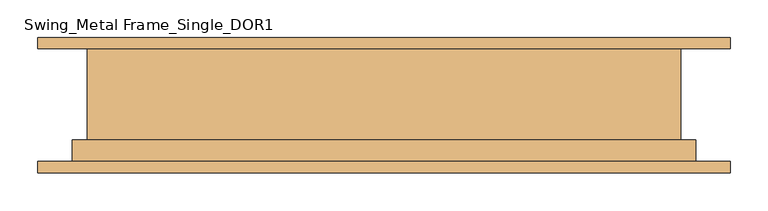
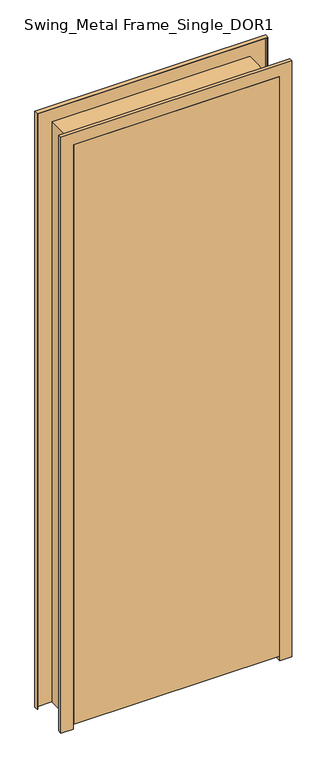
"""IFC4 building model written with IfcOpenShell, lengths in millimetres: door geometry, Swing_Metal Frame_Single_DOR1 : 2040h x 820 (2110x920 STUD)."""

from ifc_helpers import new_model, si_unit, frame, origin, place, context, project, spatial, polyline, outline, extrude, faceted_brep, source, transform, mapped, element, save


def swing_metal_frame_single_dor1_8c3bdc90(model_context):
    return source(origin(), model_context, "Body", "SolidModel", [
        extrude(outline(polyline([(410.0, -90.0), (-410.0, -90.0), (-410.0, -50.0), (410.0, -50.0), (410.0, -90.0)])), frame((0.0, 0.0, 20.0), z_axis=(0.0, 0.0, 1.0), x_axis=(1.0, 0.0, 0.0)), (0.0, 0.0, 1.0), 2440.0),
        faceted_brep([(-460.0, 90.0, 0.0), (-392.0, 90.0, 0.0), (-392.0, -48.0, 0.0), (-412.0, -48.0, 0.0), (-412.0, -90.0, 0.0), (-460.0, -90.0, 0.0), (-460.0, -75.0, 0.0), (-458.0, -75.0, 0.0), (-458.0, -88.0, 0.0), (-414.0, -88.0, 0.0), (-414.0, -46.0, 0.0), (-394.0, -46.0, 0.0), (-394.0, 88.0, 0.0), (-458.0, 88.0, 0.0), (-458.0, 75.0, 0.0), (-460.0, 75.0, 0.0), (-460.0, 75.0, 2510.0), (-460.0, 90.0, 2510.0), (-458.0, 75.0, 2508.0), (458.0, 75.0, 2508.0), (458.0, 75.0, 0.0), (460.0, 75.0, 0.0), (460.0, 75.0, 2510.0), (-458.0, 88.0, 2508.0), (-394.0, 88.0, 2444.0), (394.0, 88.0, 2444.0), (394.0, 88.0, 0.0), (458.0, 88.0, 0.0), (458.0, 88.0, 2508.0), (-394.0, -46.0, 2444.0), (-414.0, -46.0, 2464.0), (414.0, -46.0, 2464.0), (414.0, -46.0, 0.0), (394.0, -46.0, 0.0), (394.0, -46.0, 2444.0), (-414.0, -88.0, 2464.0), (-458.0, -88.0, 2508.0), (458.0, -88.0, 2508.0), (458.0, -88.0, 0.0), (414.0, -88.0, 0.0), (414.0, -88.0, 2464.0), (-458.0, -75.0, 2508.0), (-460.0, -75.0, 2510.0), (460.0, -75.0, 2510.0), (460.0, -75.0, 0.0), (458.0, -75.0, 0.0), (458.0, -75.0, 2508.0), (-460.0, -90.0, 2510.0), (-412.0, -90.0, 2462.0), (412.0, -90.0, 2462.0), (412.0, -90.0, 0.0), (460.0, -90.0, 0.0), (460.0, -90.0, 2510.0), (-412.0, -48.0, 2462.0), (-392.0, -48.0, 2442.0), (392.0, -48.0, 2442.0), (392.0, -48.0, 0.0), (412.0, -48.0, 0.0), (412.0, -48.0, 2462.0), (-392.0, 90.0, 2442.0), (460.0, 90.0, 2510.0), (460.0, 90.0, 0.0), (392.0, 90.0, 0.0), (392.0, 90.0, 2442.0)], [[[0, 1, 2, 3, 4, 5, 6, 7, 8, 9, 10, 11, 12, 13, 14, 15]], [[15, 16, 17, 0]], [[14, 18, 19, 20, 21, 22, 16, 15]], [[13, 23, 18, 14]], [[12, 24, 25, 26, 27, 28, 23, 13]], [[11, 29, 24, 12]], [[10, 30, 31, 32, 33, 34, 29, 11]], [[9, 35, 30, 10]], [[8, 36, 37, 38, 39, 40, 35, 9]], [[7, 41, 36, 8]], [[6, 42, 43, 44, 45, 46, 41, 7]], [[5, 47, 42, 6]], [[4, 48, 49, 50, 51, 52, 47, 5]], [[3, 53, 48, 4]], [[2, 54, 55, 56, 57, 58, 53, 3]], [[1, 59, 54, 2]], [[0, 17, 60, 61, 62, 63, 59, 1]], [[22, 21, 61, 60]], [[61, 21, 20, 27, 26, 33, 32, 39, 38, 45, 44, 51, 50, 57, 56, 62]], [[28, 27, 20, 19]], [[34, 33, 26, 25]], [[40, 39, 32, 31]], [[46, 45, 38, 37]], [[52, 51, 44, 43]], [[58, 57, 50, 49]], [[63, 62, 56, 55]], [[16, 22, 60, 17]], [[23, 28, 19, 18]], [[29, 34, 25, 24]], [[35, 40, 31, 30]], [[41, 46, 37, 36]], [[47, 52, 43, 42]], [[53, 58, 49, 48]], [[59, 63, 55, 54]]]),
    ])


if __name__ == "__main__":
    model = new_model("IFC4")
    model_context = context("Model", 3, world=origin())
    ifc_project = project(units=[si_unit("LENGTHUNIT", "METRE", prefix="MILLI")], contexts=[model_context])
    site = spatial("IfcSite", under=ifc_project)
    building = spatial("IfcBuilding", under=site)
    placement = place(None, origin())
    swing_metal_frame_single_dor1_shape = swing_metal_frame_single_dor1_8c3bdc90(model_context)
    element("IfcDoor", 1, ObjectType="Swing_Metal Frame_Single_DOR1 : 2040h x 820 (2110x920 STUD)", at=placement, inside=building, context=model_context, shape_type="MappedRepresentation", body=[
        mapped(swing_metal_frame_single_dor1_shape, transform((0.0, 0.0, 0.0), x_axis=(1.0, 0.0, 0.0), y_axis=(0.0, 1.0, 0.0), z_axis=(0.0, 0.0, 1.0))),
    ])
    save(model, "model.ifc")
